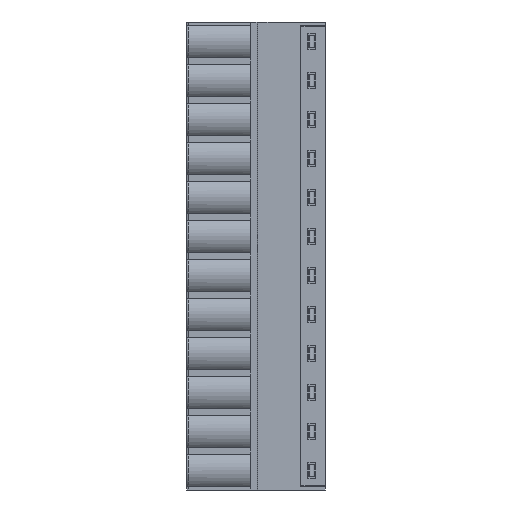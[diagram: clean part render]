
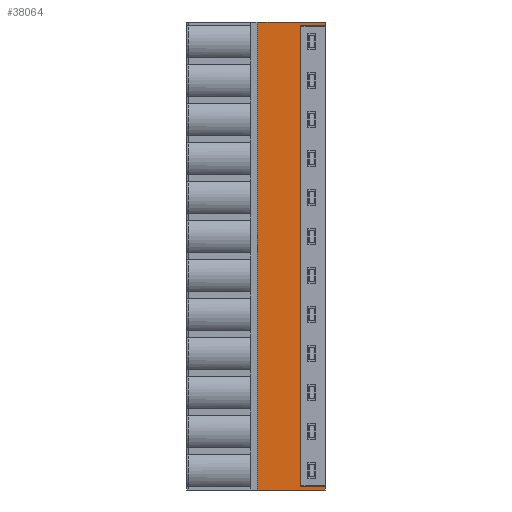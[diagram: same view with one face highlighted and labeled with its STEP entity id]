
A CAD part, left-side view. The second image highlights one B-rep face of the part: STEP entity #38064.
In plain terms, the highlighted planar face has unit normal (-1, 0, 0).
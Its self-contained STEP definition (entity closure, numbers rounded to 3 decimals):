
#1619 = CARTESIAN_POINT ( 'NONE',  ( -3.9, 0.967, 0.49 ) ) ;
#2814 = LINE ( 'NONE', #37522, #13853 ) ;
#3047 = LINE ( 'NONE', #33533, #18154 ) ;
#3280 = VERTEX_POINT ( 'NONE', #12711 ) ;
#3292 = LINE ( 'NONE', #41013, #31043 ) ;
#3306 = DIRECTION ( 'NONE',  ( 0., -1., 0. ) ) ;
#3933 = VERTEX_POINT ( 'NONE', #16050 ) ;
#4013 = B_SPLINE_CURVE_WITH_KNOTS ( 'NONE', 3,
 ( #24348, #48070, #1619, #13861 ),
 .UNSPECIFIED., .F., .F.,
 ( 4, 4 ),
 ( 0., 1. ),
 .UNSPECIFIED. ) ;
#5671 = VERTEX_POINT ( 'NONE', #44679 ) ;
#5698 = CARTESIAN_POINT ( 'NONE',  ( -3.9, 0.967, 60.47 ) ) ;
#6750 = EDGE_LOOP ( 'NONE', ( #25898, #14223, #9669, #30789, #25968, #28028, #46526, #26404, #32680, #38105 ) ) ;
#7301 = B_SPLINE_CURVE_WITH_KNOTS ( 'NONE', 3,
 ( #17857, #9616, #21337, #25101 ),
 .UNSPECIFIED., .F., .F.,
 ( 4, 4 ),
 ( 0., 1. ),
 .UNSPECIFIED. ) ;
#8263 = VERTEX_POINT ( 'NONE', #39312 ) ;
#9616 = CARTESIAN_POINT ( 'NONE',  ( -3.9, 3.167, 0.492 ) ) ;
#9665 = DIRECTION ( 'NONE',  ( 0., 0., -1. ) ) ;
#9669 = ORIENTED_EDGE ( 'NONE', *, *, #31515, .F. ) ;
#10538 = VERTEX_POINT ( 'NONE', #40038 ) ;
#10664 = EDGE_CURVE ( 'NONE', #10538, #3280, #2814, .T. ) ;
#12276 = DIRECTION ( 'NONE',  ( 0., 0., -1. ) ) ;
#12711 = CARTESIAN_POINT ( 'NONE',  ( -3.9, 0., 60.96 ) ) ;
#13853 = VECTOR ( 'NONE', #3306, 1000. ) ;
#13861 = CARTESIAN_POINT ( 'NONE',  ( -3.9, 0., 0.49 ) ) ;
#14223 = ORIENTED_EDGE ( 'NONE', *, *, #42022, .F. ) ;
#14448 = CARTESIAN_POINT ( 'NONE',  ( -3.9, 2.9, 60.47 ) ) ;
#15252 = CARTESIAN_POINT ( 'NONE',  ( -3.9, 3.3, 60.468 ) ) ;
#15329 = CARTESIAN_POINT ( 'NONE',  ( -3.9, 2.9, 60.47 ) ) ;
#15542 = CARTESIAN_POINT ( 'NONE',  ( -3.9, 0., 60.96 ) ) ;
#15738 = AXIS2_PLACEMENT_3D ( 'NONE', #18599, #22324, #23068 ) ;
#15801 = VERTEX_POINT ( 'NONE', #17999 ) ;
#16004 = VECTOR ( 'NONE', #12276, 1000. ) ;
#16036 = LINE ( 'NONE', #15542, #16004 ) ;
#16050 = CARTESIAN_POINT ( 'NONE',  ( -3.9, 0., 0. ) ) ;
#16455 = CARTESIAN_POINT ( 'NONE',  ( -3.9, 1.933, 60.47 ) ) ;
#17657 = CARTESIAN_POINT ( 'NONE',  ( -3.9, 3.3, 60.468 ) ) ;
#17857 = CARTESIAN_POINT ( 'NONE',  ( -3.9, 3.3, 0.492 ) ) ;
#17999 = CARTESIAN_POINT ( 'NONE',  ( -3.9, 0., 60.47 ) ) ;
#18154 = VECTOR ( 'NONE', #22520, 1000. ) ;
#18324 = CARTESIAN_POINT ( 'NONE',  ( -3.9, 3.167, 60.468 ) ) ;
#18599 = CARTESIAN_POINT ( 'NONE',  ( -3.9, 8.9, 0. ) ) ;
#19320 = CARTESIAN_POINT ( 'NONE',  ( -3.9, 3.3, 60.468 ) ) ;
#21337 = CARTESIAN_POINT ( 'NONE',  ( -3.9, 3.033, 0.491 ) ) ;
#21385 = EDGE_CURVE ( 'NONE', #41938, #48025, #46536, .T. ) ;
#21784 = DIRECTION ( 'NONE',  ( 0., 0., -1. ) ) ;
#22324 = DIRECTION ( 'NONE',  ( -1., 0., 0. ) ) ;
#22520 = DIRECTION ( 'NONE',  ( 0., -1., 0. ) ) ;
#23068 = DIRECTION ( 'NONE',  ( 0., 0., 1. ) ) ;
#24348 = CARTESIAN_POINT ( 'NONE',  ( -3.9, 2.9, 0.49 ) ) ;
#24449 = CARTESIAN_POINT ( 'NONE',  ( -3.9, 0., 0.49 ) ) ;
#25101 = CARTESIAN_POINT ( 'NONE',  ( -3.9, 2.9, 0.49 ) ) ;
#25898 = ORIENTED_EDGE ( 'NONE', *, *, #38534, .T. ) ;
#25968 = ORIENTED_EDGE ( 'NONE', *, *, #35823, .F. ) ;
#26404 = ORIENTED_EDGE ( 'NONE', *, *, #46159, .F. ) ;
#27969 = DIRECTION ( 'NONE',  ( 0., 0., -1. ) ) ;
#28028 = ORIENTED_EDGE ( 'NONE', *, *, #21385, .T. ) ;
#28195 = CARTESIAN_POINT ( 'NONE',  ( -3.9, 0., 60.47 ) ) ;
#30083 = PLANE ( 'NONE',  #15738 ) ;
#30789 = ORIENTED_EDGE ( 'NONE', *, *, #32465, .F. ) ;
#31043 = VECTOR ( 'NONE', #21784, 1000. ) ;
#31442 = CARTESIAN_POINT ( 'NONE',  ( -3.9, 2.9, 60.47 ) ) ;
#31465 = LINE ( 'NONE', #24449, #43200 ) ;
#31515 = EDGE_CURVE ( 'NONE', #8263, #36886, #4013, .T. ) ;
#32465 = EDGE_CURVE ( 'NONE', #5671, #8263, #7301, .T. ) ;
#32680 = ORIENTED_EDGE ( 'NONE', *, *, #10664, .F. ) ;
#33533 = CARTESIAN_POINT ( 'NONE',  ( -3.9, 8.8, 0. ) ) ;
#33602 = CARTESIAN_POINT ( 'NONE',  ( -3.9, 8.8, 0. ) ) ;
#35823 = EDGE_CURVE ( 'NONE', #41938, #5671, #43880, .T. ) ;
#36886 = VERTEX_POINT ( 'NONE', #48313 ) ;
#37297 = CARTESIAN_POINT ( 'NONE',  ( -3.9, 3.033, 60.469 ) ) ;
#37522 = CARTESIAN_POINT ( 'NONE',  ( -3.9, 8.8, 60.96 ) ) ;
#38064 = ADVANCED_FACE ( 'NONE', ( #40582 ), #30083, .T. ) ;
#38105 = ORIENTED_EDGE ( 'NONE', *, *, #44874, .T. ) ;
#38534 = EDGE_CURVE ( 'NONE', #47393, #3933, #3047, .T. ) ;
#39312 = CARTESIAN_POINT ( 'NONE',  ( -3.9, 2.9, 0.49 ) ) ;
#40038 = CARTESIAN_POINT ( 'NONE',  ( -3.9, 8.8, 60.96 ) ) ;
#40582 = FACE_OUTER_BOUND ( 'NONE', #6750, .T. ) ;
#41013 = CARTESIAN_POINT ( 'NONE',  ( -3.9, 8.8, 60.96 ) ) ;
#41938 = VERTEX_POINT ( 'NONE', #15252 ) ;
#42022 = EDGE_CURVE ( 'NONE', #36886, #3933, #31465, .T. ) ;
#43200 = VECTOR ( 'NONE', #27969, 1000. ) ;
#43590 = B_SPLINE_CURVE_WITH_KNOTS ( 'NONE', 3,
 ( #31442, #16455, #5698, #28195 ),
 .UNSPECIFIED., .F., .F.,
 ( 4, 4 ),
 ( 0., 1. ),
 .UNSPECIFIED. ) ;
#43880 = LINE ( 'NONE', #17657, #48388 ) ;
#44679 = CARTESIAN_POINT ( 'NONE',  ( -3.9, 3.3, 0.492 ) ) ;
#44874 = EDGE_CURVE ( 'NONE', #10538, #47393, #3292, .T. ) ;
#46159 = EDGE_CURVE ( 'NONE', #3280, #15801, #16036, .T. ) ;
#46526 = ORIENTED_EDGE ( 'NONE', *, *, #49240, .T. ) ;
#46536 = B_SPLINE_CURVE_WITH_KNOTS ( 'NONE', 3,
 ( #19320, #18324, #37297, #15329 ),
 .UNSPECIFIED., .F., .F.,
 ( 4, 4 ),
 ( 0., 1. ),
 .UNSPECIFIED. ) ;
#47393 = VERTEX_POINT ( 'NONE', #33602 ) ;
#48025 = VERTEX_POINT ( 'NONE', #14448 ) ;
#48070 = CARTESIAN_POINT ( 'NONE',  ( -3.9, 1.933, 0.49 ) ) ;
#48313 = CARTESIAN_POINT ( 'NONE',  ( -3.9, 0., 0.49 ) ) ;
#48388 = VECTOR ( 'NONE', #9665, 1000. ) ;
#49240 = EDGE_CURVE ( 'NONE', #48025, #15801, #43590, .T. ) ;
